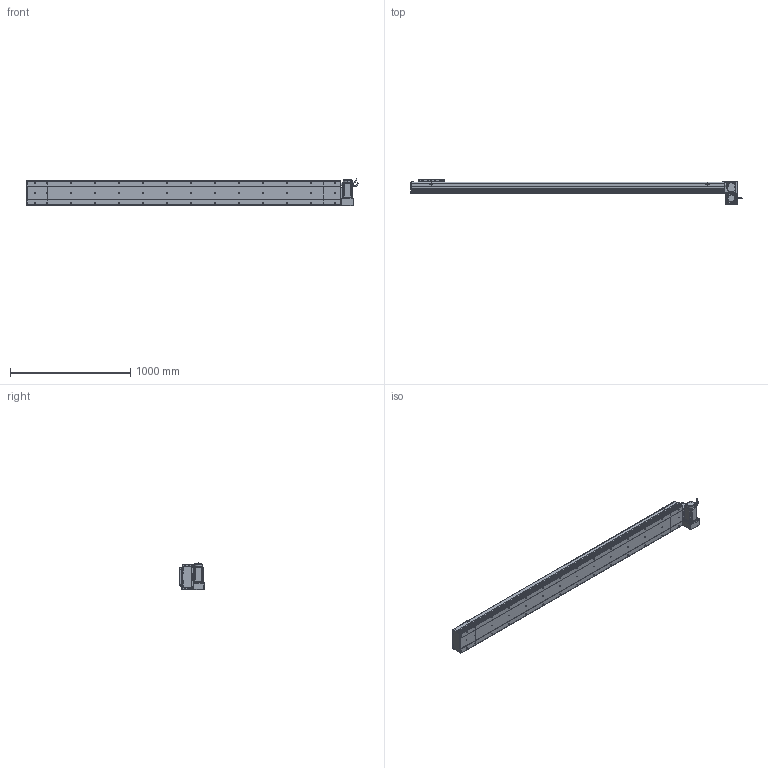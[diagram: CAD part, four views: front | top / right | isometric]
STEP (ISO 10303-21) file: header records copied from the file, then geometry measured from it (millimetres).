
FILE_DESCRIPTION (( 'STEP AP214' ), '1' );
FILE_NAME ('D20 CBH RU S2300.STEP', '2010-06-30T10:06:38', ( 'Conseil Régional Haute-Normandie' ), ( 'Conseil Régional Haute-Normandie' ), 'SwSTEP 2.0', 'SolidWorks 2010', '' );
FILE_SCHEMA (( 'AUTOMOTIVE_DESIGN' ));
Length unit declared in the file: millimetre
Products named in the file (31): Head RU_Default; D20 CBH RU S2300; Plaque de Bout Head D20 RU_Default; Corp S2300_Default; Corp D20 S2300_Default; Glissiere_Default; Support moteur RU_Default; Couvercle S2300_Default; Chariot D20_Default; Couvercle RU_Default; Corp Tail D20 RU_Default; Support Chariot D20_Default; Plaque De Serrage D20 RU_Default; ecrou_Default; Rondelle Cache D20 RU_Default; Cache Support Moteur RU_Default; vis M5 L47_Default; Moteur motionking 90BLDC125A-640; vis M5 L30_Default; Conecteur_Default; Conecteur2_Default; avant 90BLDC125A-640; codeur 90BLDC125-640; corps 90BLDC125A-640; Tail D20+100_Default; Couvercle_Default; Corp Tail D20+100_Default; Plaque de Bout Tail D20_Default; Plaque De Serrage D20_Default; vis M5 L15_Default
Assembly tree (66 placements, depth 4):
  D20 CBH RU S2300
    Tail D20+100_Default
      vis M5 L15_Default  x6
      Couvercle_Default
      Plaque De Serrage D20_Default
      Corp Tail D20+100_Default
      Plaque de Bout Tail D20_Default
    Head RU_Default
      vis M5 L47_Default  x4
      Cache Support Moteur RU_Default
      vis M5 L15_Default  x12
      ecrou_Default  x4
      Rondelle Cache D20 RU_Default  x3
      Plaque de Bout Head D20 RU_Default
      Corp Tail D20 RU_Default
      vis M5 L30_Default  x4
      Support moteur RU_Default
      Plaque De Serrage D20 RU_Default
      Couvercle RU_Default
      Moteur motionking 90BLDC125A-640
        corps 90BLDC125A-640
        codeur 90BLDC125-640
        Conecteur2_Default
        Conecteur_Default
        avant 90BLDC125A-640
    Chariot D20_Default
      vis M5 L15_Default  x8
      Glissiere_Default
      Chariot D20_Default
      Support Chariot D20_Default
    Corp D20 S2300_Default
      Corp S2300_Default
      Couvercle S2300_Default
Bounding box: 2764.45 x 209 x 229.7 mm (x, y, z)
Volume: 18818335.9 mm3; surface area: 3655961.6 mm2
Topology: 103 solids, 103 shells, 3790 faces, 9452 edges, 6142 vertices
Faces by surface type: plane 2105, bspline 806, cylinder 716, torus 91, cone 68, sphere 4
Entity records: 160054 total; most frequent: CARTESIAN_POINT 82422, ORIENTED_EDGE 15372, DIRECTION 11730, EDGE_CURVE 7686, VERTEX_POINT 5086, LINE 4966, VECTOR 4966, AXIS2_PLACEMENT_3D 3382
